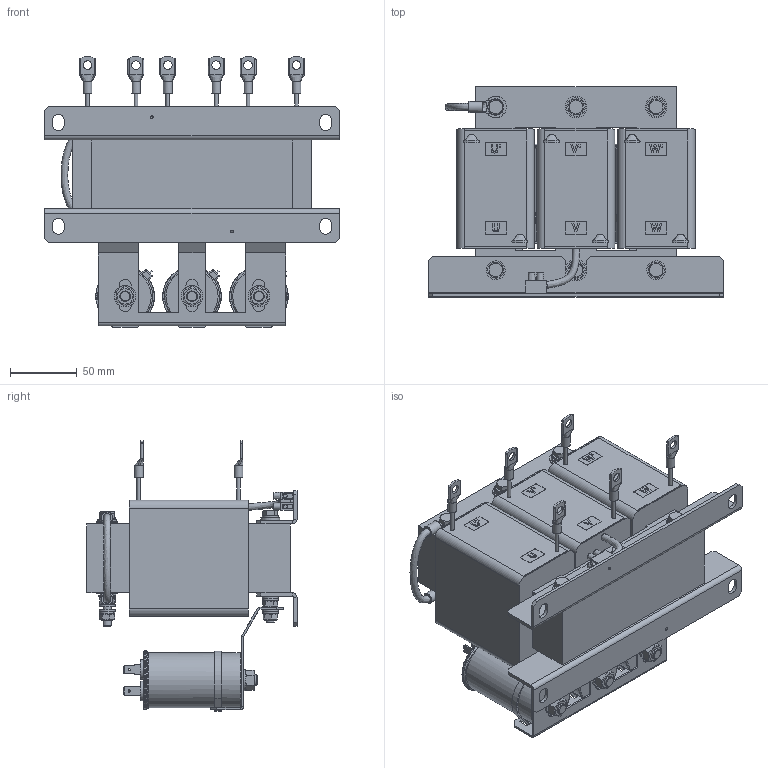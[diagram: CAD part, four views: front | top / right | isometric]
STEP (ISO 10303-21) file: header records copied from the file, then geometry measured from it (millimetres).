
FILE_DESCRIPTION(/* description */ (''),/* implementation_level */ '2;1');
FILE_NAME(/* name */ 'C:\Users\Erika.Jenzer\OneDrive - Schaffner EMV AG\BELLA\STEP FILES BELLA\FN\FN5420-26-92-E0XXT.stp',/* time_stamp */ '2021-07-07T16:24:29+02:00',/* author */ ('erika.jenzer'),/* organization */ (''),/* preprocessor_version */ 'ST-DEVELOPER v18.1',/* originating_system */ 'Autodesk Inventor 2020',/* authorisation */ '');
FILE_SCHEMA (('AUTOMOTIVE_DESIGN { 1 0 10303 214 3 1 1 }'));
Products named in the file (1): FN5420-26-92-E0XXT
Bounding box: 220 x 157 x 202.52 mm (x, y, z)
Volume: 2193858.4 mm3; surface area: 267757.1 mm2
Topology: 8 solids, 18 shells, 2115 faces, 5608 edges, 3729 vertices
Faces by surface type: plane 1439, cylinder 396, cone 131, bspline 119, torus 17, sphere 13
Full cylindrical faces by diameter (mm): 0.01 x2, 1.6 x12, 2.013 x2, 2.5 x1, 2.8 x11, 3.4 x4, 3.5 x6, 5.19 x2, 5.459 x6, 5.8 x2, 6 x19, 6.1 x7, 6.4 x14, 6.5 x14, 6.6 x6, 7 x2, 7.6 x5, 8 x6, 8.2 x2, 8.4 x3, 8.5 x4, 8.7 x6, 9 x1, 12 x14, 12.2 x6, 13 x1, 14 x5, 14.85 x6, 16 x7, 41 x3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
Entity records: 70190 total; most frequent: CARTESIAN_POINT 16233, ORIENTED_EDGE 11214, DIRECTION 10143, EDGE_CURVE 5607, VERTEX_POINT 3729, LINE 3493, VECTOR 3493, AXIS2_PLACEMENT_3D 3325
